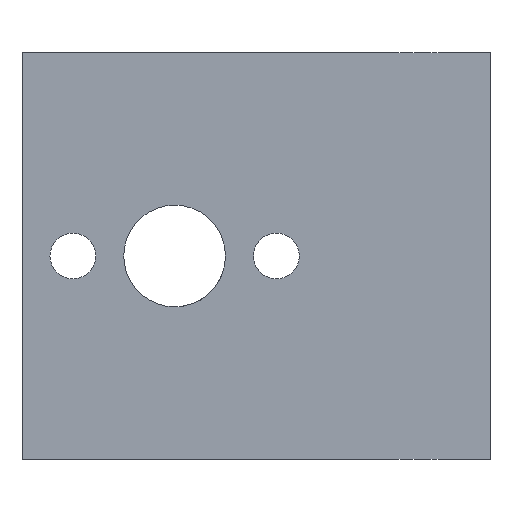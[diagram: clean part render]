
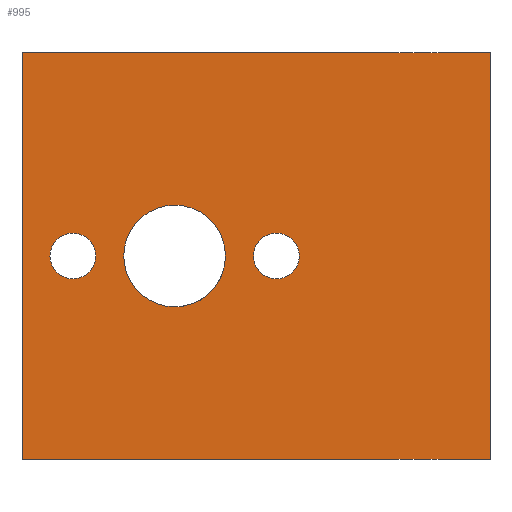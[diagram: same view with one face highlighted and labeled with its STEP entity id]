
A CAD part, left-side view. The second image highlights one B-rep face of the part: STEP entity #995.
In plain terms, the highlighted planar face has unit normal (-1, 0, 0).
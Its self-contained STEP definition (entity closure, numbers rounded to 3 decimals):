
#63 = CARTESIAN_POINT ( 'NONE',  ( 0., 41.452, 20. ) ) ;
#171 = CARTESIAN_POINT ( 'NONE',  ( 0., 16.952, 20. ) ) ;
#190 = CARTESIAN_POINT ( 'NONE',  ( 0., 34.202, 20. ) ) ;
#265 = CARTESIAN_POINT ( 'NONE',  ( 0., 21.452, 20. ) ) ;
#300 = DIRECTION ( 'NONE',  ( 0., -1., 0. ) ) ;
#301 = DIRECTION ( 'NONE',  ( 1., 0., 0. ) ) ;
#302 = CARTESIAN_POINT ( 'NONE',  ( 0., 19.202, 20. ) ) ;
#303 = AXIS2_PLACEMENT_3D ( 'NONE', #302, #301, #300 ) ;
#304 = CIRCLE ( 'NONE', #303, 2.25 ) ;
#329 = DIRECTION ( 'NONE',  ( 0., -1., 0. ) ) ;
#330 = DIRECTION ( 'NONE',  ( 1., 0., 0. ) ) ;
#331 = CARTESIAN_POINT ( 'NONE',  ( 0., 29.202, 20. ) ) ;
#332 = AXIS2_PLACEMENT_3D ( 'NONE', #331, #330, #329 ) ;
#333 = CIRCLE ( 'NONE', #332, 5. ) ;
#334 = CARTESIAN_POINT ( 'NONE',  ( 0., 24.202, 20. ) ) ;
#422 = CARTESIAN_POINT ( 'NONE',  ( 0., 36.952, 20. ) ) ;
#440 = CARTESIAN_POINT ( 'NONE',  ( 0., -1.798, 0. ) ) ;
#549 = DIRECTION ( 'NONE',  ( 0., -1., 0. ) ) ;
#550 = DIRECTION ( 'NONE',  ( 1., 0., 0. ) ) ;
#551 = CARTESIAN_POINT ( 'NONE',  ( 0., 39.202, 20. ) ) ;
#552 = AXIS2_PLACEMENT_3D ( 'NONE', #551, #550, #549 ) ;
#553 = CIRCLE ( 'NONE', #552, 2.25 ) ;
#601 = AXIS2_PLACEMENT_3D ( 'NONE', #648, #605, #603 ) ;
#602 = CIRCLE ( 'NONE', #601, 5. ) ;
#603 = DIRECTION ( 'NONE',  ( 0., -1., 0. ) ) ;
#604 = CARTESIAN_POINT ( 'NONE',  ( 0., 44.202, 40. ) ) ;
#605 = DIRECTION ( 'NONE',  ( 1., 0., 0. ) ) ;
#616 = DIRECTION ( 'NONE',  ( 0., -1., 0. ) ) ;
#617 = DIRECTION ( 'NONE',  ( 1., 0., 0. ) ) ;
#618 = CARTESIAN_POINT ( 'NONE',  ( 0., 19.202, 20. ) ) ;
#625 = CARTESIAN_POINT ( 'NONE',  ( 0., -1.798, 40. ) ) ;
#638 = DIRECTION ( 'NONE',  ( 0., 1., 0. ) ) ;
#639 = VECTOR ( 'NONE', #638, 1000. ) ;
#640 = CARTESIAN_POINT ( 'NONE',  ( 0., -1.798, 40. ) ) ;
#641 = LINE ( 'NONE', #640, #639 ) ;
#642 = CARTESIAN_POINT ( 'NONE',  ( 0., 44.202, 0. ) ) ;
#643 = DIRECTION ( 'NONE',  ( 0., -1., 0. ) ) ;
#644 = DIRECTION ( 'NONE',  ( 1., 0., 0. ) ) ;
#645 = CARTESIAN_POINT ( 'NONE',  ( 0., 39.202, 20. ) ) ;
#646 = AXIS2_PLACEMENT_3D ( 'NONE', #645, #644, #643 ) ;
#647 = CIRCLE ( 'NONE', #646, 2.25 ) ;
#648 = CARTESIAN_POINT ( 'NONE',  ( 0., 29.202, 20. ) ) ;
#650 = AXIS2_PLACEMENT_3D ( 'NONE', #618, #617, #616 ) ;
#651 = CIRCLE ( 'NONE', #650, 2.25 ) ;
#652 = DIRECTION ( 'NONE',  ( 0., 0., -1. ) ) ;
#653 = VECTOR ( 'NONE', #652, 1000. ) ;
#654 = CARTESIAN_POINT ( 'NONE',  ( 0., 44.202, 0. ) ) ;
#655 = LINE ( 'NONE', #654, #653 ) ;
#663 = VERTEX_POINT ( 'NONE', #63 ) ;
#675 = VERTEX_POINT ( 'NONE', #265 ) ;
#678 = VERTEX_POINT ( 'NONE', #171 ) ;
#686 = VERTEX_POINT ( 'NONE', #190 ) ;
#698 = EDGE_CURVE ( 'NONE', #678, #675, #304, .T. ) ;
#714 = VERTEX_POINT ( 'NONE', #334 ) ;
#718 = EDGE_CURVE ( 'NONE', #714, #686, #333, .T. ) ;
#811 = EDGE_CURVE ( 'NONE', #827, #663, #553, .T. ) ;
#827 = VERTEX_POINT ( 'NONE', #422 ) ;
#900 = EDGE_LOOP ( 'NONE', ( #901, #970 ) ) ;
#901 = ORIENTED_EDGE ( 'NONE', *, *, #698, .T. ) ;
#902 = ORIENTED_EDGE ( 'NONE', *, *, #1035, .T. ) ;
#903 = ORIENTED_EDGE ( 'NONE', *, *, #954, .T. ) ;
#905 = VERTEX_POINT ( 'NONE', #440 ) ;
#921 = EDGE_CURVE ( 'NONE', #686, #714, #602, .T. ) ;
#922 = VERTEX_POINT ( 'NONE', #604 ) ;
#924 = VERTEX_POINT ( 'NONE', #625 ) ;
#935 = EDGE_CURVE ( 'NONE', #663, #827, #647, .T. ) ;
#938 = EDGE_CURVE ( 'NONE', #922, #946, #655, .T. ) ;
#942 = EDGE_CURVE ( 'NONE', #675, #678, #651, .T. ) ;
#946 = VERTEX_POINT ( 'NONE', #642 ) ;
#954 = EDGE_CURVE ( 'NONE', #924, #922, #641, .T. ) ;
#967 = EDGE_LOOP ( 'NONE', ( #1008, #988 ) ) ;
#968 = ORIENTED_EDGE ( 'NONE', *, *, #811, .T. ) ;
#970 = ORIENTED_EDGE ( 'NONE', *, *, #942, .T. ) ;
#988 = ORIENTED_EDGE ( 'NONE', *, *, #921, .T. ) ;
#995 = ADVANCED_FACE ( 'NONE', ( #1088, #1087, #1086, #1085 ), #1094, .T. ) ;
#996 = EDGE_LOOP ( 'NONE', ( #968, #1037 ) ) ;
#1005 = ORIENTED_EDGE ( 'NONE', *, *, #938, .T. ) ;
#1007 = ORIENTED_EDGE ( 'NONE', *, *, #1034, .T. ) ;
#1008 = ORIENTED_EDGE ( 'NONE', *, *, #718, .T. ) ;
#1033 = EDGE_LOOP ( 'NONE', ( #1007, #902, #903, #1005 ) ) ;
#1034 = EDGE_CURVE ( 'NONE', #946, #905, #1186, .T. ) ;
#1035 = EDGE_CURVE ( 'NONE', #905, #924, #1182, .T. ) ;
#1037 = ORIENTED_EDGE ( 'NONE', *, *, #935, .T. ) ;
#1085 = FACE_BOUND ( 'NONE', #967, .T. ) ;
#1086 = FACE_BOUND ( 'NONE', #996, .T. ) ;
#1087 = FACE_BOUND ( 'NONE', #900, .T. ) ;
#1088 = FACE_OUTER_BOUND ( 'NONE', #1033, .T. ) ;
#1090 = DIRECTION ( 'NONE',  ( 0., -1., 0. ) ) ;
#1091 = DIRECTION ( 'NONE',  ( -1., 0., 0. ) ) ;
#1092 = CARTESIAN_POINT ( 'NONE',  ( 0., -1.798, 0. ) ) ;
#1093 = AXIS2_PLACEMENT_3D ( 'NONE', #1092, #1091, #1090 ) ;
#1094 = PLANE ( 'NONE',  #1093 ) ;
#1179 = DIRECTION ( 'NONE',  ( 0., 0., 1. ) ) ;
#1180 = VECTOR ( 'NONE', #1179, 1000. ) ;
#1181 = CARTESIAN_POINT ( 'NONE',  ( 0., -1.798, 0. ) ) ;
#1182 = LINE ( 'NONE', #1181, #1180 ) ;
#1183 = DIRECTION ( 'NONE',  ( 0., -1., 0. ) ) ;
#1184 = VECTOR ( 'NONE', #1183, 1000. ) ;
#1185 = CARTESIAN_POINT ( 'NONE',  ( 0., -1.798, 0. ) ) ;
#1186 = LINE ( 'NONE', #1185, #1184 ) ;
